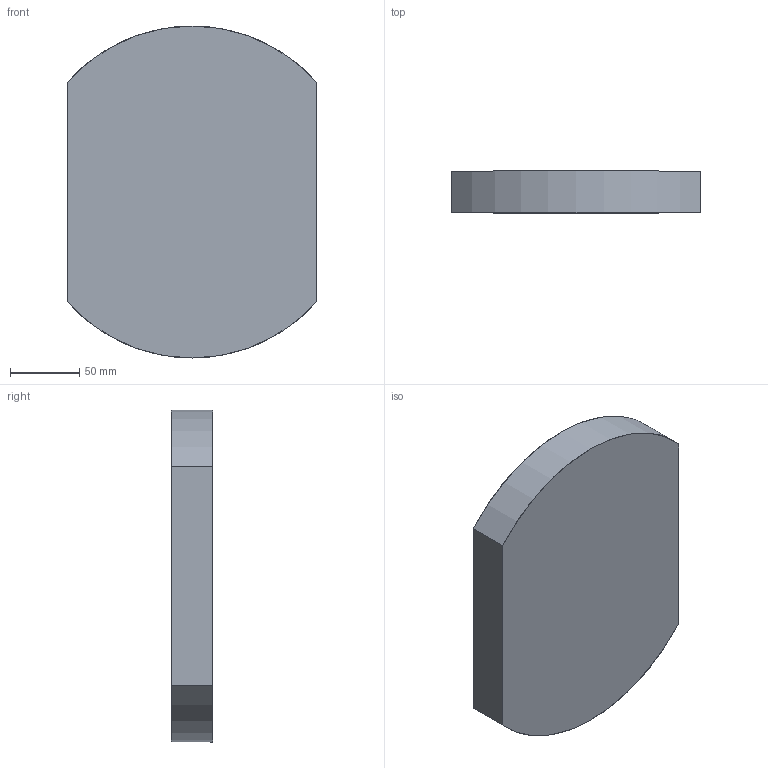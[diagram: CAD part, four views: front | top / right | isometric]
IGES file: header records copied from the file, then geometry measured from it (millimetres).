
Start section: SolidWorks IGES file using analytic representation for surfaces
Global section: file name: C:\Users\Martin\Desktop\Camera Turret\Camera Turret Center Section.IGS; native system: SolidWorks 2018; preprocessor: SolidWorks 2018; author: Martin; date: 180417.081605; units: millimetre
Bounding box: 180 x 30 x 240 mm (x, y, z)
Surface area: 99159.3 mm2 (no closed solid volume)
Topology: 0 solids, 0 shells, 6 faces, 84 edges, 84 vertices
Faces by surface type: bspline 4, revolution 2
